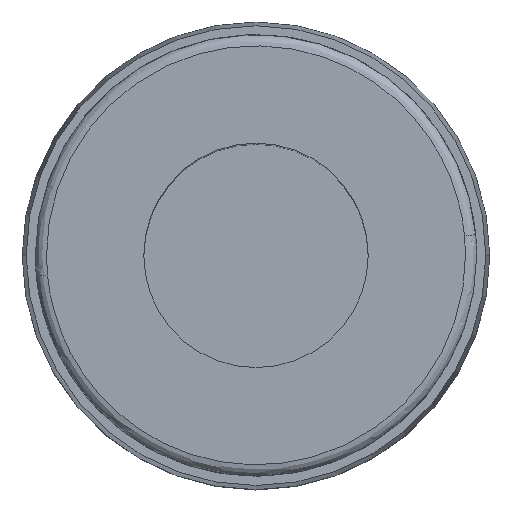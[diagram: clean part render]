
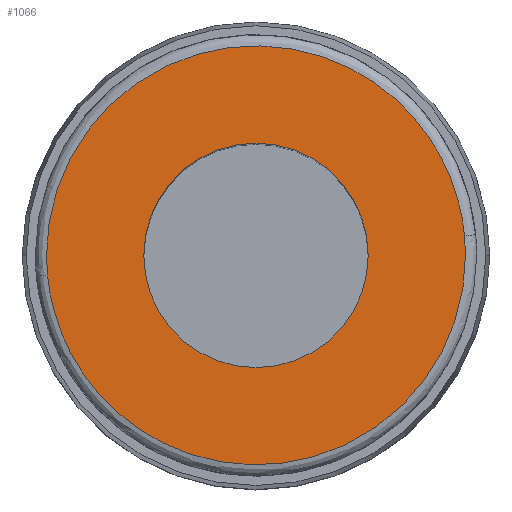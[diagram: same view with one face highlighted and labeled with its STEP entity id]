
A CAD part, top view. The second image highlights one B-rep face of the part: STEP entity #1066.
In plain terms, the highlighted planar face has unit normal (0, 0, 1).
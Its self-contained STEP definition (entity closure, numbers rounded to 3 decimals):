
#43 = EDGE_CURVE ( 'NONE', #780, #1285, #1497, .T. ) ;
#49 = AXIS2_PLACEMENT_3D ( 'NONE', #686, #965, #1358 ) ;
#94 = CARTESIAN_POINT ( 'NONE',  ( 5.575, 0.525, 40.75 ) ) ;
#95 = CARTESIAN_POINT ( 'NONE',  ( 4.616, 10.708, 40.75 ) ) ;
#97 = CARTESIAN_POINT ( 'NONE',  ( 5.6, 0., 40.75 ) ) ;
#114 = CARTESIAN_POINT ( 'NONE',  ( -5.6, 10.228, 40.75 ) ) ;
#144 = EDGE_CURVE ( 'NONE', #1285, #1516, #590, .T. ) ;
#167 = ORIENTED_EDGE ( 'NONE', *, *, #1168, .F. ) ;
#187 = CARTESIAN_POINT ( 'NONE',  ( -5.6, 0., 40.75 ) ) ;
#217 = CARTESIAN_POINT ( 'NONE',  ( -5.6, 0., 40.75 ) ) ;
#220 = CARTESIAN_POINT ( 'NONE',  ( -5.575, -0.525, 40.75 ) ) ;
#235 = CARTESIAN_POINT ( 'NONE',  ( -5.6, -0.175, 40.75 ) ) ;
#239 = CARTESIAN_POINT ( 'NONE',  ( -5.592, -0.351, 40.75 ) ) ;
#253 = CIRCLE ( 'NONE', #49, 3. ) ;
#304 = VERTEX_POINT ( 'NONE', #697 ) ;
#325 = ORIENTED_EDGE ( 'NONE', *, *, #1563, .T. ) ;
#379 = ORIENTED_EDGE ( 'NONE', *, *, #43, .F. ) ;
#388 = DIRECTION ( 'NONE',  ( 0., 0., 1. ) ) ;
#404 = DIRECTION ( 'NONE',  ( 1., 0., 0. ) ) ;
#428 = PLANE ( 'NONE',  #912 ) ;
#438 = DIRECTION ( 'NONE',  ( 0., 0., -1. ) ) ;
#459 = CARTESIAN_POINT ( 'NONE',  ( 0., 0., 40.75 ) ) ;
#469 = AXIS2_PLACEMENT_3D ( 'NONE', #459, #438, #776 ) ;
#590 =( BOUNDED_CURVE ( )  B_SPLINE_CURVE ( 3, ( #187, #114, #95, #94 ),
 .UNSPECIFIED., .F., .T. ) 
 B_SPLINE_CURVE_WITH_KNOTS ( ( 4, 4 ),
 ( 0., 0.97 ),
 .UNSPECIFIED. ) 
 CURVE ( )  GEOMETRIC_REPRESENTATION_ITEM ( )  RATIONAL_B_SPLINE_CURVE ( ( 1., 0.365, 0.365, 1. ) ) 
 REPRESENTATION_ITEM ( '' )  );
#659 = EDGE_LOOP ( 'NONE', ( #325, #1377 ) ) ;
#686 = CARTESIAN_POINT ( 'NONE',  ( 0., 0., 40.75 ) ) ;
#693 = EDGE_CURVE ( 'NONE', #1516, #1223, #908, .T. ) ;
#697 = CARTESIAN_POINT ( 'NONE',  ( -3., 0., 40.75 ) ) ;
#776 = DIRECTION ( 'NONE',  ( 1., 0., 0. ) ) ;
#780 = VERTEX_POINT ( 'NONE', #1341 ) ;
#785 = VERTEX_POINT ( 'NONE', #1299 ) ;
#842 = ORIENTED_EDGE ( 'NONE', *, *, #693, .F. ) ;
#856 = CIRCLE ( 'NONE', #469, 3. ) ;
#868 = EDGE_CURVE ( 'NONE', #304, #785, #856, .T. ) ;
#908 =( BOUNDED_CURVE ( )  B_SPLINE_CURVE ( 3, ( #1340, #1305, #1418, #1413 ),
 .UNSPECIFIED., .F., .T. ) 
 B_SPLINE_CURVE_WITH_KNOTS ( ( 4, 4 ),
 ( 0.97, 1. ),
 .UNSPECIFIED. ) 
 CURVE ( )  GEOMETRIC_REPRESENTATION_ITEM ( )  RATIONAL_B_SPLINE_CURVE ( ( 1., 0.999, 0.999, 1. ) ) 
 REPRESENTATION_ITEM ( '' )  );
#912 = AXIS2_PLACEMENT_3D ( 'NONE', #1254, #388, #404 ) ;
#962 =( BOUNDED_CURVE ( )  B_SPLINE_CURVE ( 3, ( #1284, #1571, #1601, #1614 ),
 .UNSPECIFIED., .F., .T. ) 
 B_SPLINE_CURVE_WITH_KNOTS ( ( 4, 4 ),
 ( 0., 0.97 ),
 .UNSPECIFIED. ) 
 CURVE ( )  GEOMETRIC_REPRESENTATION_ITEM ( )  RATIONAL_B_SPLINE_CURVE ( ( 1., 0.365, 0.365, 1. ) ) 
 REPRESENTATION_ITEM ( '' )  );
#965 = DIRECTION ( 'NONE',  ( 0., 0., -1. ) ) ;
#1066 = ADVANCED_FACE ( '6', ( #1575, #1346 ), #428, .T. ) ;
#1168 = EDGE_CURVE ( 'NONE', #1223, #780, #962, .T. ) ;
#1200 = CARTESIAN_POINT ( 'NONE',  ( -5.6, 0., 40.75 ) ) ;
#1223 = VERTEX_POINT ( 'NONE', #97 ) ;
#1254 = CARTESIAN_POINT ( 'NONE',  ( -6.1, 6.1, 40.75 ) ) ;
#1284 = CARTESIAN_POINT ( 'NONE',  ( 5.6, 0., 40.75 ) ) ;
#1285 = VERTEX_POINT ( 'NONE', #1200 ) ;
#1297 = CARTESIAN_POINT ( 'NONE',  ( 5.575, 0.525, 40.75 ) ) ;
#1299 = CARTESIAN_POINT ( 'NONE',  ( 3., 0., 40.75 ) ) ;
#1305 = CARTESIAN_POINT ( 'NONE',  ( 5.592, 0.351, 40.75 ) ) ;
#1340 = CARTESIAN_POINT ( 'NONE',  ( 5.575, 0.525, 40.75 ) ) ;
#1341 = CARTESIAN_POINT ( 'NONE',  ( -5.575, -0.525, 40.75 ) ) ;
#1346 = FACE_OUTER_BOUND ( 'NONE', #1376, .T. ) ;
#1358 = DIRECTION ( 'NONE',  ( 1., 0., 0. ) ) ;
#1368 = ORIENTED_EDGE ( 'NONE', *, *, #144, .F. ) ;
#1376 = EDGE_LOOP ( 'NONE', ( #167, #842, #1368, #379 ) ) ;
#1377 = ORIENTED_EDGE ( 'NONE', *, *, #868, .T. ) ;
#1413 = CARTESIAN_POINT ( 'NONE',  ( 5.6, 0., 40.75 ) ) ;
#1418 = CARTESIAN_POINT ( 'NONE',  ( 5.6, 0.175, 40.75 ) ) ;
#1497 =( BOUNDED_CURVE ( )  B_SPLINE_CURVE ( 3, ( #220, #239, #235, #217 ),
 .UNSPECIFIED., .F., .T. ) 
 B_SPLINE_CURVE_WITH_KNOTS ( ( 4, 4 ),
 ( 0.97, 1. ),
 .UNSPECIFIED. ) 
 CURVE ( )  GEOMETRIC_REPRESENTATION_ITEM ( )  RATIONAL_B_SPLINE_CURVE ( ( 1., 0.999, 0.999, 1. ) ) 
 REPRESENTATION_ITEM ( '' )  );
#1516 = VERTEX_POINT ( 'NONE', #1297 ) ;
#1563 = EDGE_CURVE ( 'NONE', #785, #304, #253, .T. ) ;
#1571 = CARTESIAN_POINT ( 'NONE',  ( 5.6, -10.228, 40.75 ) ) ;
#1575 = FACE_BOUND ( 'NONE', #659, .T. ) ;
#1601 = CARTESIAN_POINT ( 'NONE',  ( -4.616, -10.708, 40.75 ) ) ;
#1614 = CARTESIAN_POINT ( 'NONE',  ( -5.575, -0.525, 40.75 ) ) ;
